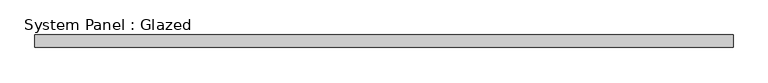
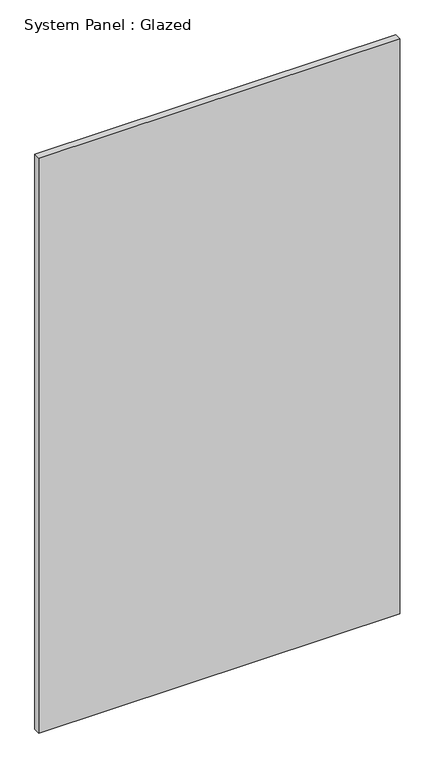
"""IFC4 building model written with IfcOpenShell, lengths in millimetres: plate geometry, System Panel : Glazed."""

from ifc_helpers import new_model, si_unit, origin, origin_with_axes, place, context, project, spatial, polyline, outline, extrude, source, transform, mapped, element, save


def system_panel_glazed_a91bc1ec(model_context):
    return source(origin(), model_context, "Body", "SweptSolid", [
        extrude(outline(polyline([(705.1113156, 19.05), (-705.1113156, 19.05), (-705.1113156, 44.45), (705.1113156, 44.45), (705.1113156, 19.05)])), origin_with_axes(), (0.0, 0.0, 1.0), 2374.9),
    ])


if __name__ == "__main__":
    model = new_model("IFC4")
    model_context = context("Model", 3, world=origin())
    ifc_project = project(units=[si_unit("LENGTHUNIT", "METRE", prefix="MILLI")], contexts=[model_context])
    site = spatial("IfcSite", under=ifc_project)
    building = spatial("IfcBuilding", under=site)
    placement = place(None, origin())
    system_panel_glazed_shape = system_panel_glazed_a91bc1ec(model_context)
    element("IfcPlate", 1, ObjectType="System Panel : Glazed", at=placement, inside=building, context=model_context, shape_type="MappedRepresentation", body=[
        mapped(system_panel_glazed_shape, transform((0.0, 0.0, 0.0), x_axis=(1.0, 0.0, 0.0), y_axis=(0.0, 1.0, 0.0), z_axis=(0.0, 0.0, 1.0))),
    ])
    save(model, "model.ifc")
